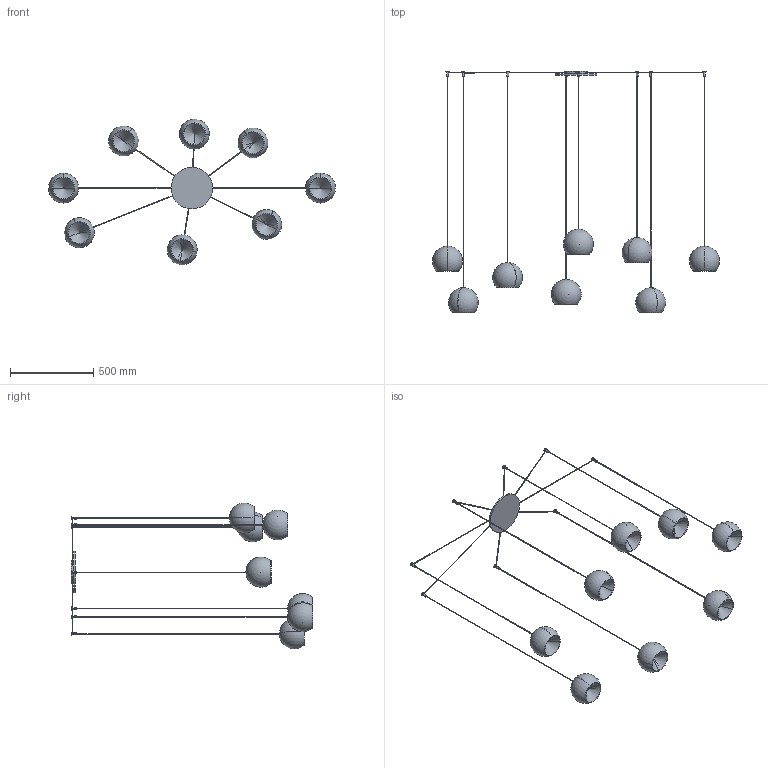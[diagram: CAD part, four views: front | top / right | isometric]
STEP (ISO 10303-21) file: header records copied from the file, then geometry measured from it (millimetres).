
FILE_DESCRIPTION (( 'STEP AP203' ), '1' );
FILE_NAME ('CHRA6-00-CHERRY_8 sospensione.STEP', '2025-05-06T06:18:13', ( '' ), ( '' ), 'SwSTEP 2.0', 'SolidWorks 2022', '' );
FILE_SCHEMA (( 'CONFIG_CONTROL_DESIGN' ));
Length unit declared in the file: millimetre
Products named in the file (8): CHERRY_Lampada singola_Cherry 180 | H=1850; CHERRY_Rosone_Cherry 8 (x 2400)<A macchina>; CHRA6-00-CHERRY_8 sospensione; CHERRY_Lampada singola_Cherry 180 | H=1550; CHERRY_Lampada singola_Cherry 180 | H=1800; CHERRY_Lampada singola_Cherry 180 | H=1600; CHERRY_Lampada singola_Cherry 180 | H=1700; CHERRY_Lampada singola_Cherry 180 | H=1900
Assembly tree (9 placements, depth 2):
  CHRA6-00-CHERRY_8 sospensione
    CHERRY_Rosone_Cherry 8 (x 2400)<A macchina>
    CHERRY_Lampada singola_Cherry 180 | H=1800  x2
    CHERRY_Lampada singola_Cherry 180 | H=1550  x2
    CHERRY_Lampada singola_Cherry 180 | H=1600
    CHERRY_Lampada singola_Cherry 180 | H=1850
    CHERRY_Lampada singola_Cherry 180 | H=1900
    CHERRY_Lampada singola_Cherry 180 | H=1700
Bounding box: 1723 x 1450 x 874.89 mm (x, y, z)
Volume: 2385412.6 mm3; surface area: 1963060.9 mm2
Topology: 41 solids, 41 shells, 302 faces, 715 edges, 448 vertices
Faces by surface type: cylinder 139, plane 99, sphere 32, cone 32
Entity records: 7449 total; most frequent: CARTESIAN_POINT 1558, DIRECTION 1156, ORIENTED_EDGE 942, AXIS2_PLACEMENT_3D 514, EDGE_CURVE 471, VERTEX_POINT 312, CIRCLE 264, EDGE_LOOP 263
